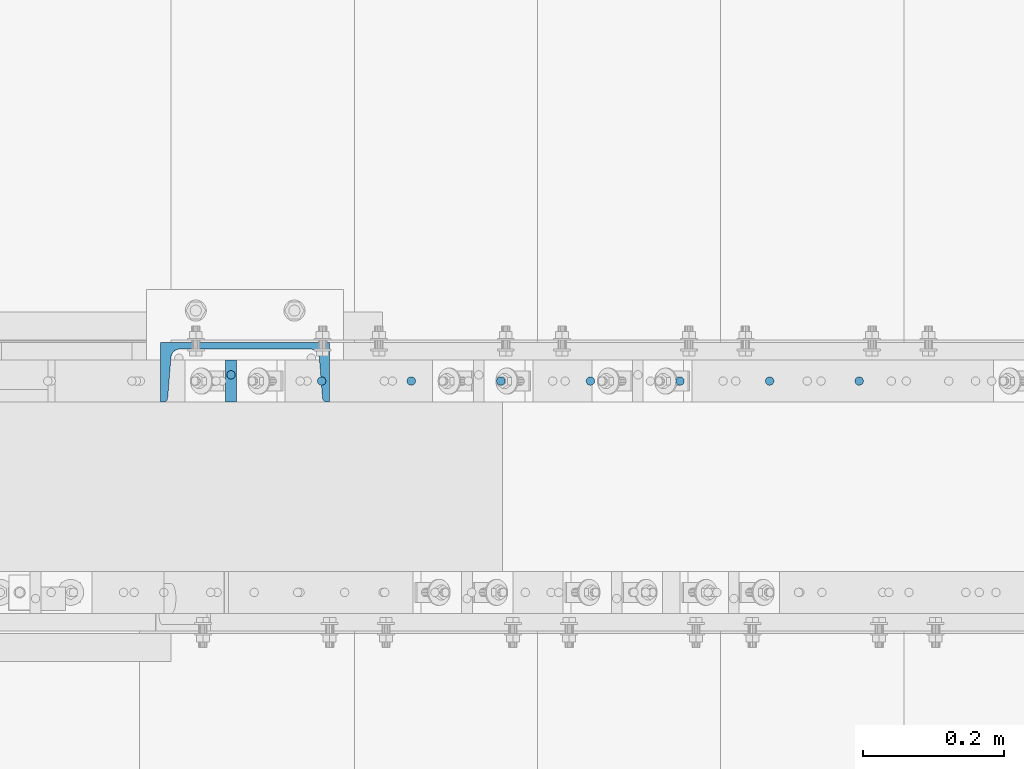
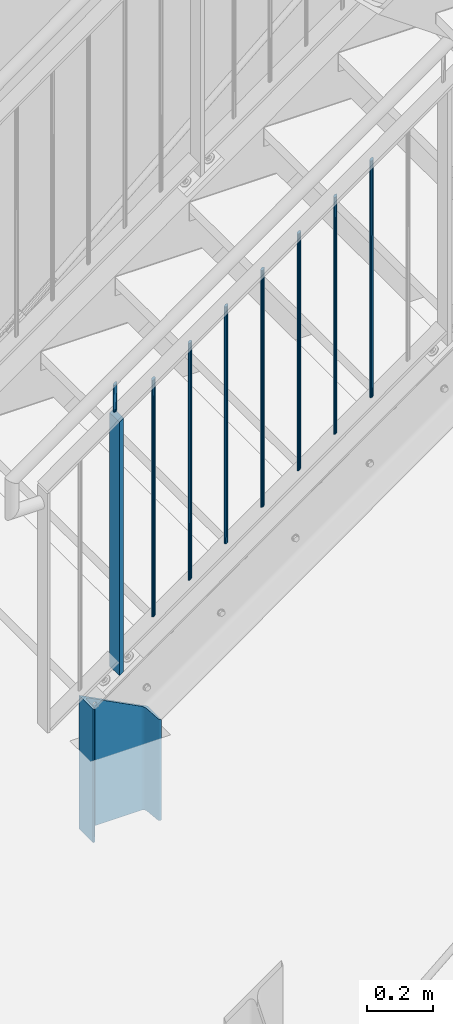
# One storey, part 42 of 825: 10 columns, 1 opening.
"""IFC2X3 building model written with IfcOpenShell, lengths in millimetres."""

from ifc_helpers import new_model, entity, si_unit, converted_unit, frame, frame_2d, origin, origin_with_axes, origin_2d, origin_2d_with_axis, place, context, project, spatial, rectangle, circle, u_section, extrude, clip, halfspace, material, element, save


model = new_model("IFC2X3")

# Units and contexts
model_context = context("Model", 3, precision=1e-09, world=origin_with_axes())
ifc_project = project(units=[si_unit("LENGTHUNIT", "METRE", prefix="MILLI"), si_unit("AREAUNIT", "SQUARE_METRE"), si_unit("VOLUMEUNIT", "CUBIC_METRE"), converted_unit("PLANEANGLEUNIT", "DEGREE", entity("IfcPlaneAngleMeasure", 0.01745329), si_unit("PLANEANGLEUNIT", "RADIAN"), dimensions=[0, 0, 0, 0, 0, 0, 0])], contexts=[model_context])

# Site, building, storey
site_placement = place(None, origin_with_axes())
site = spatial("IfcSite", under=ifc_project, at=site_placement, Name="Cnopf'sche Kinderklinik", CompositionType="ELEMENT")
building_placement = place(site_placement, origin_with_axes())
building = spatial("IfcBuilding", under=site, at=building_placement, Name="Struktur 1", CompositionType="ELEMENT")
storey_placement = place(building_placement, origin_with_axes())
storey = spatial("IfcBuildingStorey", under=building, at=storey_placement, Name="Default Storey", CompositionType="ELEMENT", Elevation=0.0)

# Column, opening
ifc_material = material(Name="S235JR")
column_1_placement = place(None, frame((5341.713402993, 6124.436971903, 735.471854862), z_axis=(0.0, 0.0, -1.0), x_axis=(0.0, -1.0, 0.0)))
column_1 = element("IfcColumn", 1, at=column_1_placement, inside=storey, material=ifc_material, Name="Stringer", ObjectType="Stringer", context=model_context, shape_type="Clipping", body=[
    clip(extrude(u_section(Depth=240.0, FlangeWidth=85.0, WebThickness=9.5, FlangeThickness=13.0, FilletRadius=13.0, EdgeRadius=6.5, FlangeSlope=4.574, at=frame_2d((20.2, 0.0))), origin(), (0.0, 0.0, 1.0), 685.471854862), halfspace(frame((6124.436971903, 4023.331766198, -1821.512085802), z_axis=(0.0, 0.458271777, 0.888812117), x_axis=(1.0, 0.0, 0.0)), True)),
])
opening_placement = place(column_1_placement, frame((-22.8, 70.0, 235.366592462), z_axis=(1.0, 0.0, 0.0), x_axis=(0.0, -1.0, 0.0)))
element("IfcOpeningElement", 2, at=opening_placement, cuts=column_1, ObjectType="Opening", context=model_context, shape_type="SweptSolid", body=[
    extrude(circle(Radius=7.001, at=origin_2d_with_axis()), origin(), (0.0, 0.0, 1.0), 10.5),
])

# Columns
column_2_placement = place(None, frame((5321.714323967, 6091.736971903, 1615.281429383), z_axis=(0.0, 0.0, 1.0), x_axis=(1.0, 0.0, 0.0)))
element("IfcColumn", 3, at=column_2_placement, inside=storey, material=ifc_material, Name="Railing_Post_Stair#0", ObjectType="Railing_Post_Stair#0", context=model_context, shape_type="Clipping", body=[
    clip(clip(extrude(rectangle(XDim=15.0, YDim=60.0, at=origin_2d()), origin(), (0.0, 0.0, -1.0), 1013.069146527), halfspace(frame((-3834.111158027, -6091.736971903, -3704.778056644), z_axis=(-0.579973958, 0.0, 0.814635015), x_axis=(0.0, -1.0, 0.0)), True)), halfspace(frame((-4276.882425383, -6091.736971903, -3082.858790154), z_axis=(0.579973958, 0.0, -0.814635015), x_axis=(0.0, 1.0, 0.0)), True)),
])
column_3_placement = place(None, frame((5450.384323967, 6091.736971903, 1679.343539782), z_axis=(0.0, 0.0, 1.0), x_axis=(1.0, 0.0, 0.0)))
element("IfcColumn", 4, at=column_3_placement, inside=storey, material=ifc_material, Name="Railing_Picket_Stair#0", ObjectType="Railing_Picket_Stair#0", context=model_context, shape_type="Clipping", body=[
    clip(clip(extrude(circle(Radius=6.0, at=origin_2d()), origin(), (0.0, 0.0, -1.0), 896.604693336), halfspace(frame((-4405.552425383, -6091.736971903, -3146.920900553), z_axis=(0.579973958, 0.0, -0.814635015), x_axis=(0.0, 1.0, 0.0)), True)), halfspace(frame((-3991.779855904, -6091.736971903, -3728.108416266), z_axis=(-0.579973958, 0.0, 0.814635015), x_axis=(0.0, -1.0, 0.0)), True)),
])
column_4_placement = place(None, frame((5577.550008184, 6091.736971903, 1769.878299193), z_axis=(0.0, 0.0, 1.0), x_axis=(1.0, 0.0, 0.0)))
element("IfcColumn", 5, at=column_4_placement, inside=storey, material=ifc_material, Name="Railing_Picket_Stair#1", ObjectType="Railing_Picket_Stair#1", context=model_context, shape_type="Clipping", body=[
    clip(clip(extrude(circle(Radius=6.0, at=origin_2d()), origin(), (0.0, 0.0, -1.0), 896.604693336), halfspace(frame((-4532.718109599, -6091.736971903, -3237.455659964), z_axis=(0.579973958, 0.0, -0.814635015), x_axis=(0.0, 1.0, 0.0)), True)), halfspace(frame((-4118.94554012, -6091.736971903, -3818.643175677), z_axis=(-0.579973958, 0.0, 0.814635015), x_axis=(0.0, -1.0, 0.0)), True)),
])
column_5_placement = place(None, frame((5704.7156924, 6091.736971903, 1860.413058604), z_axis=(0.0, 0.0, 1.0), x_axis=(1.0, 0.0, 0.0)))
element("IfcColumn", 6, at=column_5_placement, inside=storey, material=ifc_material, Name="Railing_Picket_Stair#2", ObjectType="Railing_Picket_Stair#2", context=model_context, shape_type="Clipping", body=[
    clip(clip(extrude(circle(Radius=6.0, at=origin_2d()), origin(), (0.0, 0.0, -1.0), 896.604693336), halfspace(frame((-4659.883793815, -6091.736971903, -3327.990419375), z_axis=(0.579973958, 0.0, -0.814635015), x_axis=(0.0, 1.0, 0.0)), True)), halfspace(frame((-4246.111224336, -6091.736971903, -3909.177935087), z_axis=(-0.579973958, 0.0, 0.814635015), x_axis=(0.0, -1.0, 0.0)), True)),
])
column_6_placement = place(None, frame((5831.881376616, 6091.736971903, 1950.947818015), z_axis=(0.0, 0.0, 1.0), x_axis=(1.0, 0.0, 0.0)))
element("IfcColumn", 7, at=column_6_placement, inside=storey, material=ifc_material, Name="Railing_Picket_Stair#3", ObjectType="Railing_Picket_Stair#3", context=model_context, shape_type="Clipping", body=[
    clip(clip(extrude(circle(Radius=6.0, at=origin_2d()), origin(), (0.0, 0.0, -1.0), 896.604693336), halfspace(frame((-4787.049478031, -6091.736971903, -3418.525178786), z_axis=(0.579973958, 0.0, -0.814635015), x_axis=(0.0, 1.0, 0.0)), True)), halfspace(frame((-4373.276908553, -6091.736971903, -3999.712694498), z_axis=(-0.579973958, 0.0, 0.814635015), x_axis=(0.0, -1.0, 0.0)), True)),
])
column_7_placement = place(None, frame((5959.047060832, 6091.736971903, 2041.482577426), z_axis=(0.0, 0.0, 1.0), x_axis=(1.0, 0.0, 0.0)))
element("IfcColumn", 8, at=column_7_placement, inside=storey, material=ifc_material, Name="Railing_Picket_Stair#4", ObjectType="Railing_Picket_Stair#4", context=model_context, shape_type="Clipping", body=[
    clip(clip(extrude(circle(Radius=6.0, at=origin_2d()), origin(), (0.0, 0.0, -1.0), 896.604693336), halfspace(frame((-4914.215162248, -6091.736971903, -3509.059938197), z_axis=(0.579973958, 0.0, -0.814635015), x_axis=(0.0, 1.0, 0.0)), True)), halfspace(frame((-4500.442592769, -6091.736971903, -4090.247453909), z_axis=(-0.579973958, 0.0, 0.814635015), x_axis=(0.0, -1.0, 0.0)), True)),
])
column_8_placement = place(None, frame((6086.212745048, 6091.736971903, 2132.017336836), z_axis=(0.0, 0.0, 1.0), x_axis=(1.0, 0.0, 0.0)))
element("IfcColumn", 9, at=column_8_placement, inside=storey, material=ifc_material, Name="Railing_Picket_Stair#5", ObjectType="Railing_Picket_Stair#5", context=model_context, shape_type="Clipping", body=[
    clip(clip(extrude(circle(Radius=6.0, at=origin_2d()), origin(), (0.0, 0.0, -1.0), 896.604693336), halfspace(frame((-5041.380846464, -6091.736971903, -3599.594697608), z_axis=(0.579973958, 0.0, -0.814635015), x_axis=(0.0, 1.0, 0.0)), True)), halfspace(frame((-4627.608276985, -6091.736971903, -4180.78221332), z_axis=(-0.579973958, 0.0, 0.814635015), x_axis=(0.0, -1.0, 0.0)), True)),
])
column_9_placement = place(None, frame((6213.378429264, 6091.736971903, 2222.552096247), z_axis=(0.0, 0.0, 1.0), x_axis=(1.0, 0.0, 0.0)))
element("IfcColumn", 10, at=column_9_placement, inside=storey, material=ifc_material, Name="Railing_Picket_Stair#6", ObjectType="Railing_Picket_Stair#6", context=model_context, shape_type="Clipping", body=[
    clip(clip(extrude(circle(Radius=6.0, at=origin_2d()), origin(), (0.0, 0.0, -1.0), 896.604693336), halfspace(frame((-5168.54653068, -6091.736971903, -3690.129457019), z_axis=(0.579973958, 0.0, -0.814635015), x_axis=(0.0, 1.0, 0.0)), True)), halfspace(frame((-4754.773961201, -6091.736971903, -4271.316972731), z_axis=(-0.579973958, 0.0, 0.814635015), x_axis=(0.0, -1.0, 0.0)), True)),
])
column_10_placement = place(None, frame((5321.714323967, 6100.536971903, 1700.013228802), z_axis=(0.0, 0.0, 1.0), x_axis=(0.0, -1.0, 0.0)))
element("IfcColumn", 11, at=column_10_placement, inside=storey, material=ifc_material, Name="Bar#0", ObjectType="Bar#0", context=model_context, shape_type="Clipping", body=[
    clip(clip(extrude(circle(Radius=6.0, at=origin_2d()), origin(), (0.0, 0.0, -1.0), 120.832105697), halfspace(frame((6100.536971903, -4282.683324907, -3159.442610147), z_axis=(0.0, -0.579973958, 0.814635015), x_axis=(1.0, 0.0, 0.0)), True)), halfspace(frame((6100.536971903, -4329.928874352, -3093.081218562), z_axis=(0.0, 0.579973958, -0.814635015), x_axis=(-1.0, 0.0, 0.0)), True)),
])

save(model, "model.ifc")
